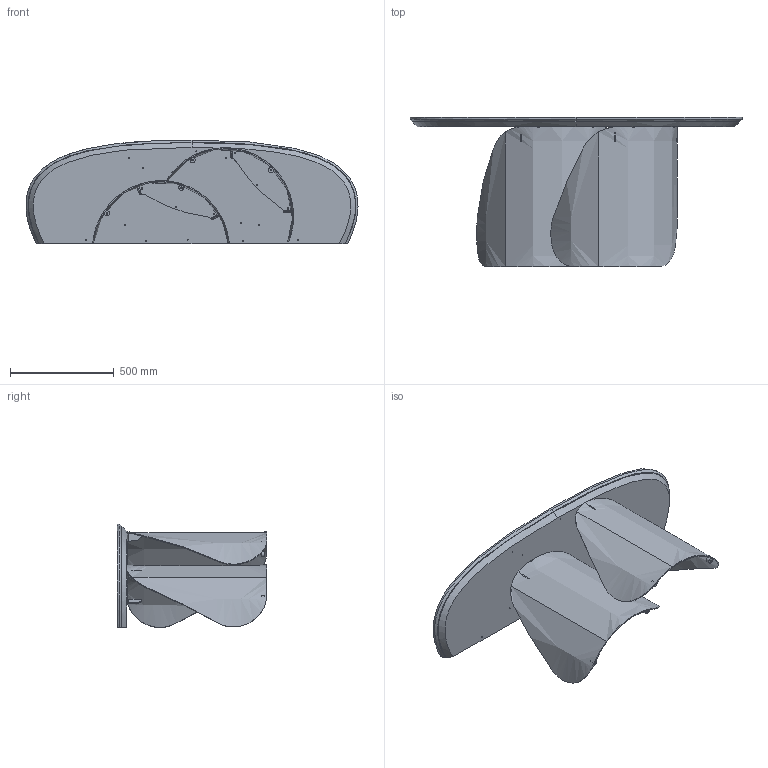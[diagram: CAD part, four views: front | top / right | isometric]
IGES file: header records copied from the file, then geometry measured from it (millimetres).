
Start section: SolidWorks IGES file using analytic representation for surfaces
Global section: file name: Y:\eforma\TECNICO\SOLIDWORKS\E-FORMA\3-CONSOLE\ONDA CONSOLE\02 parts\ON60M_Onda Console_160x50x72h_Marble Shaped.IGS; native system: SolidWorks 2022; preprocessor: SolidWorks 2022; author: eforma.tech; date: 240806.114722; units: millimetre
Bounding box: 1599.87 x 720 x 500 mm (x, y, z)
Volume: 36485171 mm3; surface area: 5219765 mm2
Topology: 10 solids, 10 shells, 282 faces, 712 edges, 430 vertices
Faces by surface type: revolution 168, plane 66, bspline 48
